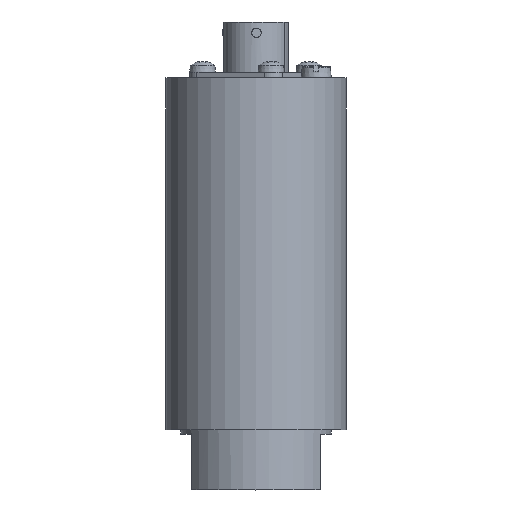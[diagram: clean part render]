
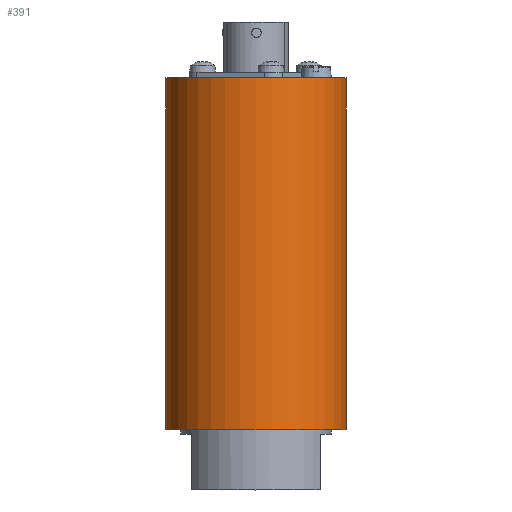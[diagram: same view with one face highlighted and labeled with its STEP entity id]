
A CAD part, top view. The second image highlights one B-rep face of the part: STEP entity #391.
In plain terms, the highlighted cylindrical face has radius 21 mm (diameter 42 mm), a partial arc.
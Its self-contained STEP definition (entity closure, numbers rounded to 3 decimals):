
#391=ADVANCED_FACE('',(#1061),#1062,.T.);
#1061=FACE_OUTER_BOUND('',#2060,.T.);
#1062=CYLINDRICAL_SURFACE('',#2061,21.0);
#2060=EDGE_LOOP('',(#3220,#3221,#3222,#3223));
#2061=AXIS2_PLACEMENT_3D('',#3224,#3225,#3226);
#3220=ORIENTED_EDGE('',*,*,#5802,.F.);
#3221=ORIENTED_EDGE('',*,*,#5803,.T.);
#3222=ORIENTED_EDGE('',*,*,#5804,.F.);
#3223=ORIENTED_EDGE('',*,*,#5805,.F.);
#3224=CARTESIAN_POINT('',(0.0,40.0,0.0));
#3225=DIRECTION('',(0.0,1.0,-0.0));
#3226=DIRECTION('',(1.0,0.0,0.0));
#5802=EDGE_CURVE('',#6947,#6948,#6949,.T.);
#5803=EDGE_CURVE('',#6947,#6950,#6951,.T.);
#5804=EDGE_CURVE('',#6952,#6950,#6953,.T.);
#5805=EDGE_CURVE('',#6948,#6952,#6954,.T.);
#6947=VERTEX_POINT('',#8621);
#6948=VERTEX_POINT('',#8622);
#6949=LINE('',#8623,#8624);
#6950=VERTEX_POINT('',#8625);
#6951=CIRCLE('',#8626,21.0);
#6952=VERTEX_POINT('',#8627);
#6953=LINE('',#8628,#8629);
#6954=CIRCLE('',#8630,21.0);
#8621=CARTESIAN_POINT('',(21.0,80.0,0.0));
#8622=CARTESIAN_POINT('',(21.0,-2.,0.));
#8623=CARTESIAN_POINT('',(21.0,40.0,0.));
#8624=VECTOR('',#10722,1.0);
#8625=CARTESIAN_POINT('',(-21.0,80.0,0.));
#8626=AXIS2_PLACEMENT_3D('',#10723,#10724,#10725);
#8627=CARTESIAN_POINT('',(-21.0,-2.,0.));
#8628=CARTESIAN_POINT('',(-21.0,40.0,0.));
#8629=VECTOR('',#10726,1.0);
#8630=AXIS2_PLACEMENT_3D('',#10727,#10728,#10729);
#10722=DIRECTION('',(-0.0,-1.0,0.0));
#10723=CARTESIAN_POINT('',(0.0,80.0,0.0));
#10724=DIRECTION('',(0.0,-1.0,0.0));
#10725=DIRECTION('',(1.0,0.0,0.0));
#10726=DIRECTION('',(0.0,1.0,0.0));
#10727=CARTESIAN_POINT('',(0.,-2.,0.));
#10728=DIRECTION('',(0.,-1.0,0.));
#10729=DIRECTION('',(1.,0.,0.));
